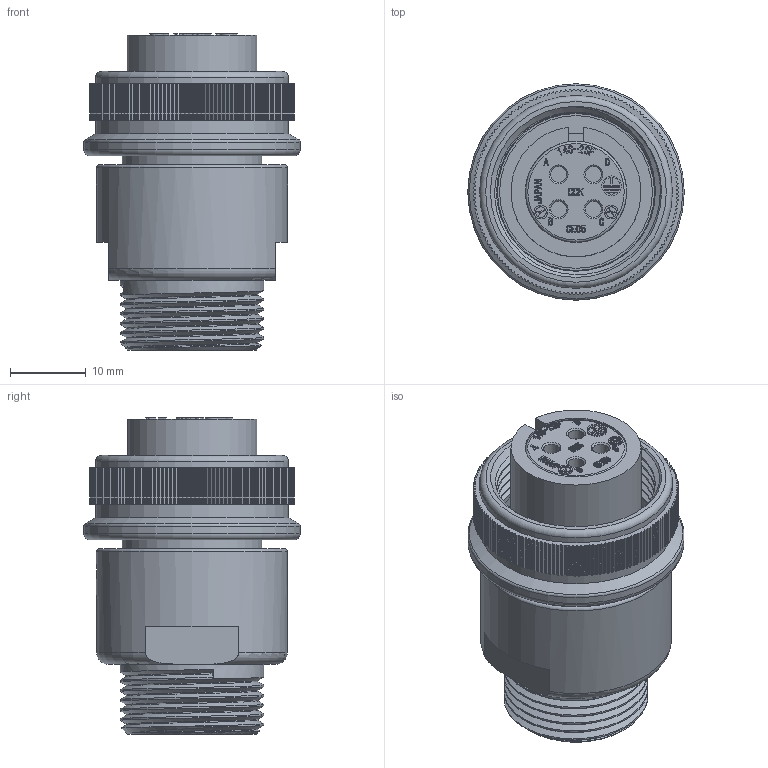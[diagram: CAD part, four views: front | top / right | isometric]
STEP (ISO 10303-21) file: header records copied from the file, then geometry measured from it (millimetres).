
FILE_DESCRIPTION (( 'STEP AP203' ), '1' );
FILE_NAME ('CE05-6A14S-2SD-D-BSS.STEP', '2021-05-24T04:20:59', ( '' ), ( '' ), 'SwSTEP 2.0', 'SolidWorks 2018', '' );
FILE_SCHEMA (( 'CONFIG_CONTROL_DESIGN' ));
Length unit declared in the file: millimetre
Products named in the file (1): CE05-6A14S-2SD-D-BSS
Bounding box: 28.52 x 28.52 x 41.65 mm (x, y, z)
Volume: 13024.3 mm3; surface area: 10030.9 mm2
Topology: 1 solids, 1 shells, 1881 faces, 5332 edges, 3555 vertices
Faces by surface type: plane 814, cylinder 693, bspline 348, cone 14, torus 12
Full cylindrical faces by diameter (mm): 1.4 x2, 1.78 x4, 1.8 x2, 2.11 x4, 2.36 x4, 2.45 x3, 2.6 x2, 4.05 x3, 10 x1, 13.3 x1, 13.37 x1, 14.85 x1, 15.8 x1, 15.94 x1, 18.39 x1, 18.96 x5, 19.18 x1, 20.12 x1, 20.68 x1, 21.4 x1, 25.18 x1, 25.4 x2, 28.52 x1
Entity records: 75679 total; most frequent: CARTESIAN_POINT 28448, ORIENTED_EDGE 10458, DIRECTION 8916, EDGE_CURVE 5229, VERTEX_POINT 3521, LINE 3084, VECTOR 3084, AXIS2_PLACEMENT_3D 2916
